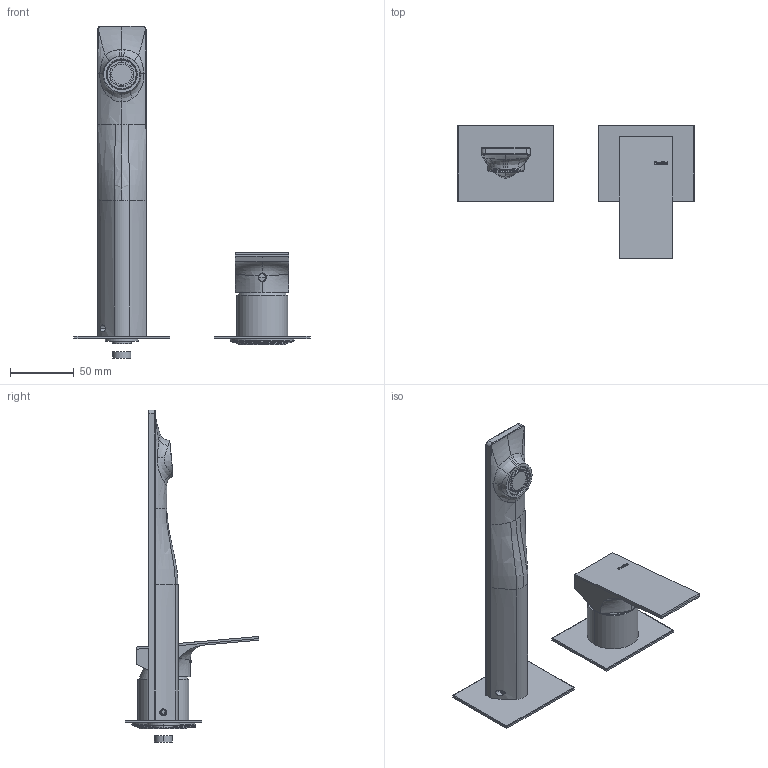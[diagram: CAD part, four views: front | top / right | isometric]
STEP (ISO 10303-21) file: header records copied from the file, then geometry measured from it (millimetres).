
FILE_DESCRIPTION((''),'2;1');
FILE_NAME('87547A_ASM','2024-12-18T16:36:22',('volponeff'),(''),'CREO PARAMETRIC BY PTC INC, 2022014','CREO PARAMETRIC BY PTC INC, 2022014','');
FILE_SCHEMA(('CONFIG_CONTROL_DESIGN'));
Products named in the file (25): D507000535; D451D50353_AF1; A503E90162; P507000577_AF1_ASM; D517C90325_AF1; A503B60010; A503B60025_AF2; P517C90627_AF1_ASM; D458C70664; A503B60092; A536A80115; A450000057; P458000678_ASM; D465000187_AF1; A302D40038_AF1; D494C90058; D460000139; D500001404_GEN; D511000162; A536A80109; P765XX0570_ASM; D507000538; D451D50351; P507000586_ASM; 87547A_ASM
Assembly tree (25 placements, depth 3):
  87547A_ASM
    P507000577_AF1_ASM
      D507000535
      D451D50353_AF1
      A503E90162
    P517C90627_AF1_ASM
      D517C90325_AF1
      A503B60010  x2
      A503B60025_AF2
    P458000678_ASM
      D458C70664
      A503B60092
      A536A80115
      A450000057
    D465000187_AF1
    A302D40038_AF1
    D494C90058
    D460000139
    D500001404_GEN
    P765XX0570_ASM
      D511000162
      A536A80109
    P507000586_ASM
      D507000538
      D451D50351
Bounding box: 185 x 104.84 x 260.2 mm (x, y, z)
Volume: 191552.8 mm3; surface area: 115757.3 mm2
Topology: 20 solids, 32 shells, 1352 faces, 3679 edges, 2409 vertices
Faces by surface type: cylinder 523, plane 425, torus 131, bspline 92, cone 89, extrusion 72, sphere 20
Entity records: 64111 total; most frequent: CARTESIAN_POINT 29697, ORIENTED_EDGE 7279, DIRECTION 6963, EDGE_CURVE 3665, AXIS2_PLACEMENT_3D 2640, VERTEX_POINT 2405, VECTOR 1683, LINE 1611
